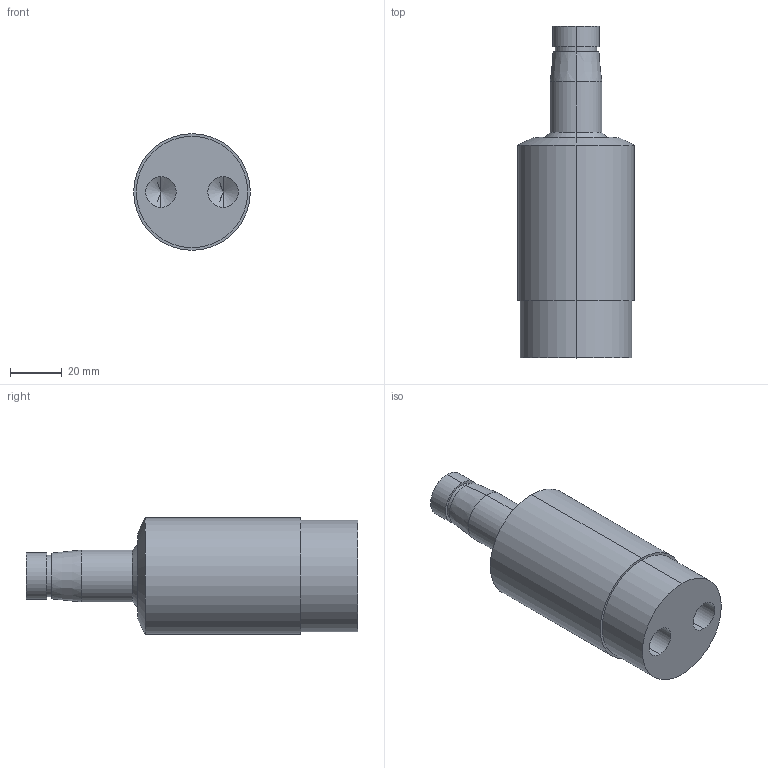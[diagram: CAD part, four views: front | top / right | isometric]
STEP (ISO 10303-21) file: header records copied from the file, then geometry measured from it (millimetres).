
FILE_DESCRIPTION (( 'STEP AP214' ), '1' );
FILE_NAME ('HPS-25-D-A.STEP', '2021-09-02T08:56:50', ( '' ), ( '' ), 'SwSTEP 2.0', 'SolidWorks 2016', '' );
FILE_SCHEMA (( 'AUTOMOTIVE_DESIGN' ));
Length unit declared in the file: millimetre
Products named in the file (1): HPS-25-D-A
Bounding box: 45 x 128 x 45 mm (x, y, z)
Volume: 140205.5 mm3; surface area: 18354.8 mm2
Topology: 1 solids, 1 shells, 30 faces, 62 edges, 36 vertices
Faces by surface type: cylinder 14, cone 10, plane 6
Entity records: 916 total; most frequent: DIRECTION 154, CARTESIAN_POINT 125, ORIENTED_EDGE 116, AXIS2_PLACEMENT_3D 65, EDGE_CURVE 58, EDGE_LOOP 36, VERTEX_POINT 36, CIRCLE 34
